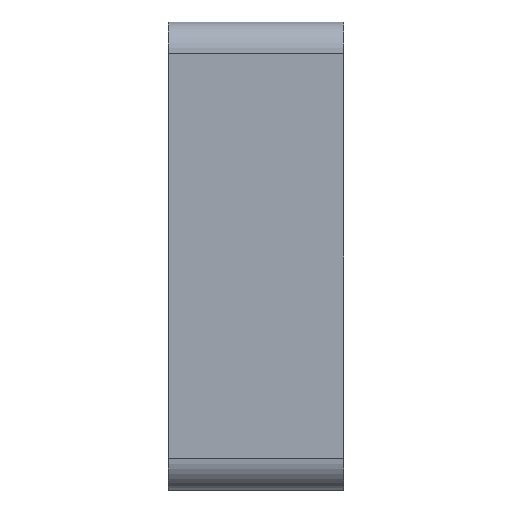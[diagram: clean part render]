
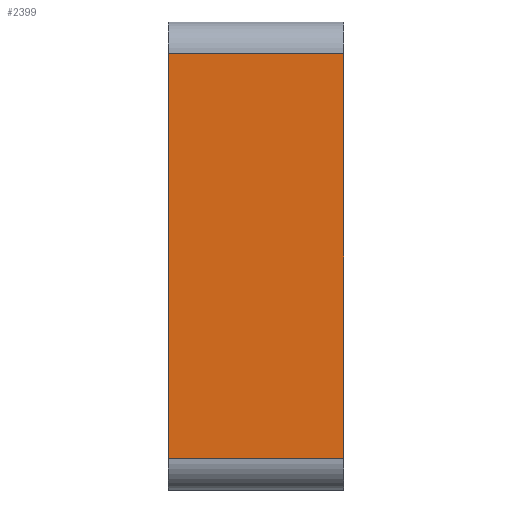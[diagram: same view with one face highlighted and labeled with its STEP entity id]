
A CAD part, left-side view. The second image highlights one B-rep face of the part: STEP entity #2399.
In plain terms, the highlighted planar face has unit normal (-1, 0, 0).
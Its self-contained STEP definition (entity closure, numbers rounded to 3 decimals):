
#74 = CARTESIAN_POINT ( 'NONE',  ( -22.3, 179.76, 0. ) ) ;
#394 = CARTESIAN_POINT ( 'NONE',  ( -22.3, 157.76, 0. ) ) ;
#445 = VERTEX_POINT ( 'NONE', #394 ) ;
#495 = EDGE_CURVE ( 'NONE', #7201, #445, #6809, .T. ) ;
#1213 = DIRECTION ( 'NONE',  ( 0., 1., 0. ) ) ;
#1223 = VECTOR ( 'NONE', #3136, 1000. ) ;
#1358 = EDGE_CURVE ( 'NONE', #9061, #4662, #4770, .T. ) ;
#1618 = EDGE_CURVE ( 'NONE', #9061, #7201, #6477, .T. ) ;
#1885 = VECTOR ( 'NONE', #4204, 1000. ) ;
#2399 = ADVANCED_FACE ( 'NONE', ( #8920 ), #7437, .F. ) ;
#2798 = CARTESIAN_POINT ( 'NONE',  ( -22.3, 179.76, 4. ) ) ;
#3104 = CARTESIAN_POINT ( 'NONE',  ( -22.3, 179.76, -50.8 ) ) ;
#3136 = DIRECTION ( 'NONE',  ( 0., 0., 1. ) ) ;
#3917 = CARTESIAN_POINT ( 'NONE',  ( -22.3, 179.76, 4. ) ) ;
#4204 = DIRECTION ( 'NONE',  ( 0., -1., 0. ) ) ;
#4626 = CARTESIAN_POINT ( 'NONE',  ( -22.3, 157.76, 4. ) ) ;
#4662 = VERTEX_POINT ( 'NONE', #74 ) ;
#4696 = ORIENTED_EDGE ( 'NONE', *, *, #1358, .F. ) ;
#4770 = LINE ( 'NONE', #3917, #1223 ) ;
#4871 = ORIENTED_EDGE ( 'NONE', *, *, #495, .T. ) ;
#5676 = CARTESIAN_POINT ( 'NONE',  ( -22.3, 179.76, -50.8 ) ) ;
#5771 = EDGE_CURVE ( 'NONE', #445, #4662, #6693, .T. ) ;
#5807 = AXIS2_PLACEMENT_3D ( 'NONE', #2798, #5907, #8868 ) ;
#5907 = DIRECTION ( 'NONE',  ( 1., 0., 0. ) ) ;
#6477 = LINE ( 'NONE', #5676, #1885 ) ;
#6541 = CARTESIAN_POINT ( 'NONE',  ( -22.3, 179.76, 0. ) ) ;
#6693 = LINE ( 'NONE', #6541, #8264 ) ;
#6809 = LINE ( 'NONE', #4626, #8720 ) ;
#6923 = CARTESIAN_POINT ( 'NONE',  ( -22.3, 157.76, -50.8 ) ) ;
#7022 = ORIENTED_EDGE ( 'NONE', *, *, #5771, .T. ) ;
#7201 = VERTEX_POINT ( 'NONE', #6923 ) ;
#7437 = PLANE ( 'NONE',  #5807 ) ;
#8264 = VECTOR ( 'NONE', #1213, 1000. ) ;
#8720 = VECTOR ( 'NONE', #9904, 1000. ) ;
#8868 = DIRECTION ( 'NONE',  ( 0., 0., -1. ) ) ;
#8920 = FACE_OUTER_BOUND ( 'NONE', #8974, .T. ) ;
#8927 = ORIENTED_EDGE ( 'NONE', *, *, #1618, .T. ) ;
#8974 = EDGE_LOOP ( 'NONE', ( #4696, #8927, #4871, #7022 ) ) ;
#9061 = VERTEX_POINT ( 'NONE', #3104 ) ;
#9904 = DIRECTION ( 'NONE',  ( 0., 0., 1. ) ) ;
